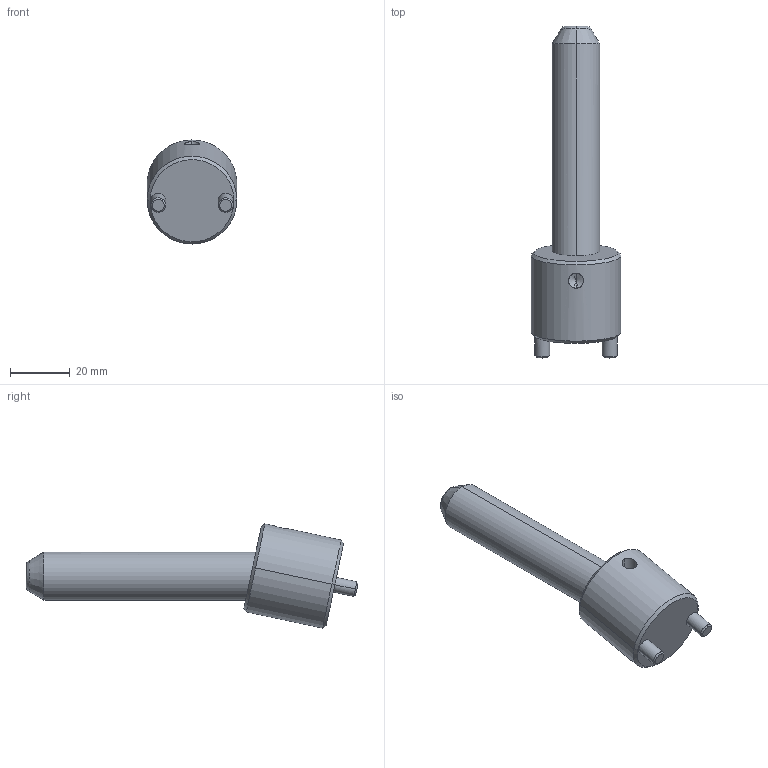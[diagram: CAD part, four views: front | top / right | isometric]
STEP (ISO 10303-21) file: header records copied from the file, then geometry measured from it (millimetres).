
FILE_DESCRIPTION(('CATIA V5 STEP Exchange'),'2;1');
FILE_NAME('C:\Users\Raffaele\Desktop\3D BOLEX\3D FILES CF BOLEX\19-INCLINED ASSEMBLY REF_CI\CI1216075.stp','2019-06-21T14:02:33+00:00',('none'),('none'),'CATIA Version 5 Release 20 GA (IN-10)','CATIA V5 STEP AP203','none');
FILE_SCHEMA(('CONFIG_CONTROL_DESIGN'));
Length unit declared in the file: millimetre
Products named in the file (1): CI1216075
Assembly tree (2 placements, depth 2):
  CI1216075
    #58
    #590
Bounding box: 30 x 110.76 x 34.75 mm (x, y, z)
Volume: 34323.3 mm3; surface area: 10713.6 mm2
Topology: 2 solids, 2 shells, 39 faces, 82 edges, 47 vertices
Faces by surface type: cone 14, cylinder 14, plane 7, torus 4
Entity records: 1470 total; most frequent: CARTESIAN_POINT 609, ORIENTED_EDGE 160, DIRECTION 146, EDGE_CURVE 80, AXIS2_PLACEMENT_3D 73, VERTEX_POINT 47, EDGE_LOOP 43, ADVANCED_FACE 39
